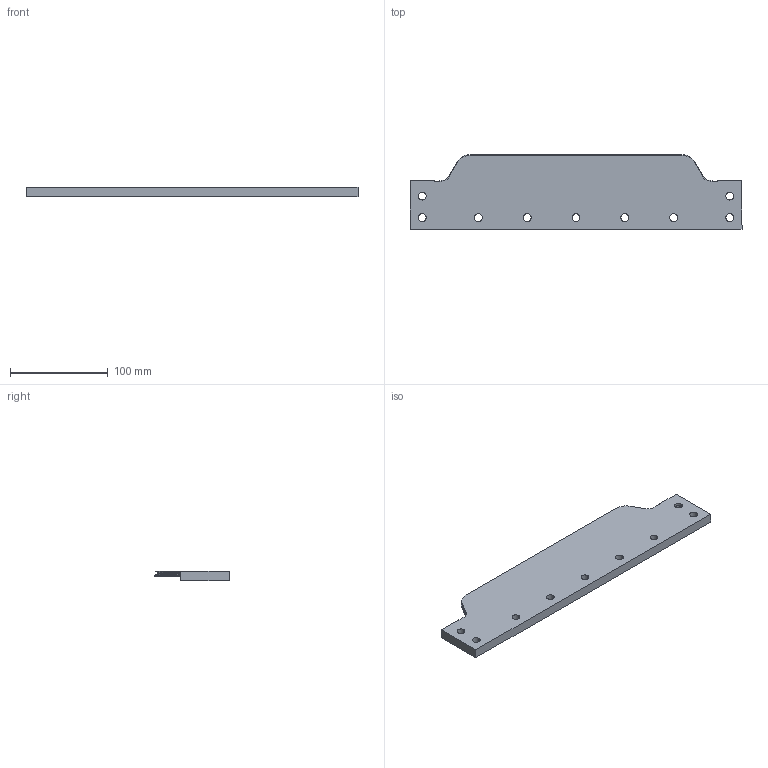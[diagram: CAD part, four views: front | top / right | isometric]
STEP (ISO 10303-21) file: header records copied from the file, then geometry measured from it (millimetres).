
FILE_DESCRIPTION (( 'STEP AP214' ), '1' );
FILE_NAME ('öåíòð âåðõ — êîïèÿ.STEP', '2025-09-02T09:04:16', ( '' ), ( '' ), 'SwSTEP 2.0', 'SolidWorks 2021', '' );
FILE_SCHEMA (( 'AUTOMOTIVE_DESIGN' ));
Length unit declared in the file: millimetre
Products named in the file (1): öåíòð âåðõ — êîïèÿ
Bounding box: 340 x 76.5 x 10 mm (x, y, z)
Volume: 165400.8 mm3; surface area: 59166.6 mm2
Topology: 1 solids, 1 shells, 177 faces, 429 edges, 254 vertices
Faces by surface type: plane 76, cylinder 61, cone 24, torus 16
Entity records: 6178 total; most frequent: CARTESIAN_POINT 960, DIRECTION 943, ORIENTED_EDGE 858, EDGE_CURVE 429, AXIS2_PLACEMENT_3D 341, VECTOR 261, LINE 261, VERTEX_POINT 254
